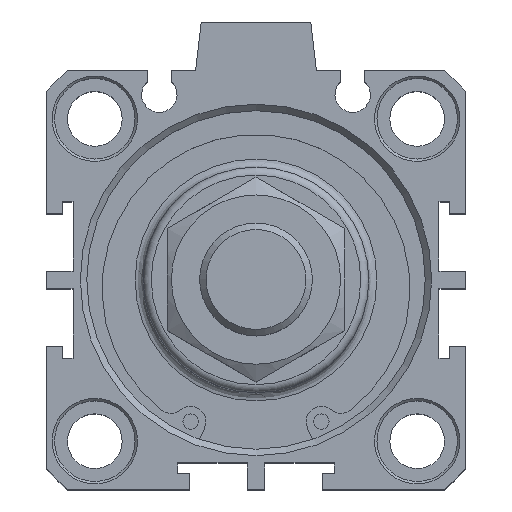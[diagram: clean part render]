
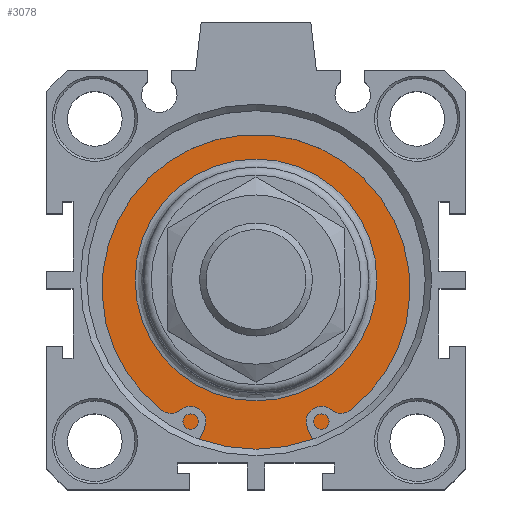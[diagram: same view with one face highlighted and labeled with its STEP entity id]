
A CAD part, top view. The second image highlights one B-rep face of the part: STEP entity #3078.
In plain terms, the highlighted planar face has unit normal (0, 0, 1).
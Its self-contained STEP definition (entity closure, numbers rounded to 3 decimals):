
#3027=CARTESIAN_POINT('',(-1.555,16.077,32.4));
#3028=VERTEX_POINT('',#3027);
#3029=CARTESIAN_POINT('',(-1.555,1.077,32.4));
#3030=DIRECTION('',(0.0,0.0,1.0));
#3031=DIRECTION('',(0.0,-1.0,0.0));
#3032=AXIS2_PLACEMENT_3D('',#3029,#3030,#3031);
#3033=CIRCLE('',#3032,15.);
#3034=EDGE_CURVE('',#3028,#3028,#3033,.T.);
#3059=CARTESIAN_POINT('',(-1.555,18.577,32.4));
#3060=DIRECTION('',(0.0,0.0,1.0));
#3061=DIRECTION('',(1.0,0.0,0.0));
#3062=AXIS2_PLACEMENT_3D('',#3059,#3060,#3061);
#3063=PLANE('',#3062);
#3064=CARTESIAN_POINT('',(-1.555,22.077,32.4));
#3065=VERTEX_POINT('',#3064);
#3066=CARTESIAN_POINT('',(-1.555,1.077,32.4));
#3067=DIRECTION('',(0.0,0.0,-1.0));
#3068=DIRECTION('',(0.0,1.0,0.0));
#3069=AXIS2_PLACEMENT_3D('',#3066,#3067,#3068);
#3070=CIRCLE('',#3069,21.);
#3071=EDGE_CURVE('',#3065,#3065,#3070,.T.);
#3072=ORIENTED_EDGE('',*,*,#3071,.F.);
#3073=EDGE_LOOP('',(#3072));
#3074=FACE_OUTER_BOUND('',#3073,.T.);
#3075=ORIENTED_EDGE('',*,*,#3034,.F.);
#3076=EDGE_LOOP('',(#3075));
#3077=FACE_BOUND('',#3076,.T.);
#3078=ADVANCED_FACE('',(#3074,#3077),#3063,.T.);
